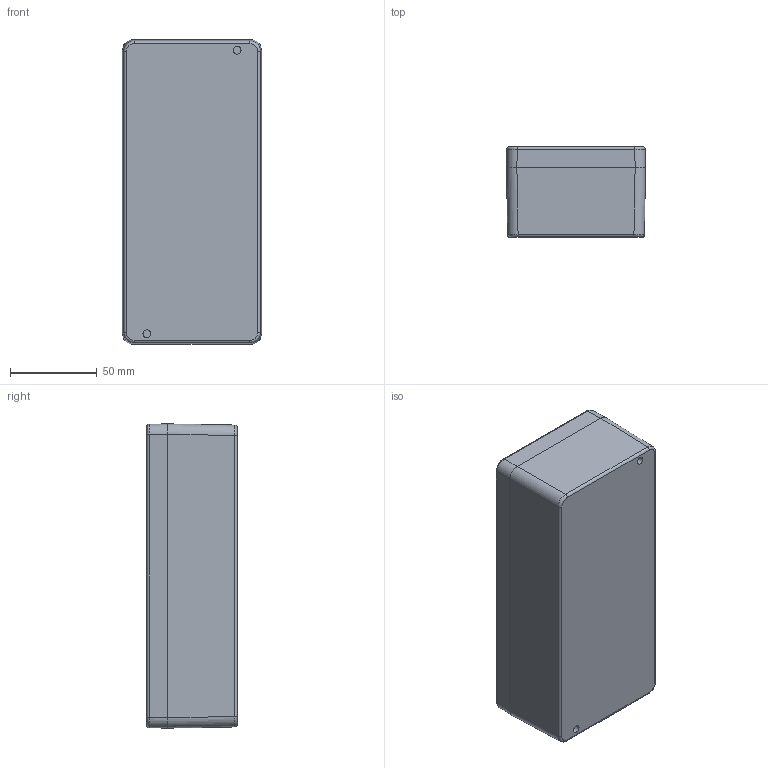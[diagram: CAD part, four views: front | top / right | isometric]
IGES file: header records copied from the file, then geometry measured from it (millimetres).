
Global section: file name: 1590Z130.iam; native system: Autodesk Inventor 2015; preprocessor: unknown; author: MBeerman; date: 20150420.084525; units: millimetre
Bounding box: 80 x 52 x 175 mm (x, y, z)
Volume: 205588.6 mm3; surface area: 114526.2 mm2
Topology: 7 solids, 7 shells, 464 faces, 1187 edges, 776 vertices
Faces by surface type: plane 205, revolution 149, cone 42, cylinder 38, sphere 16, bspline 14
Full cylindrical faces by diameter (mm): 3.43 x4, 3.88 x4, 5.971 x2
